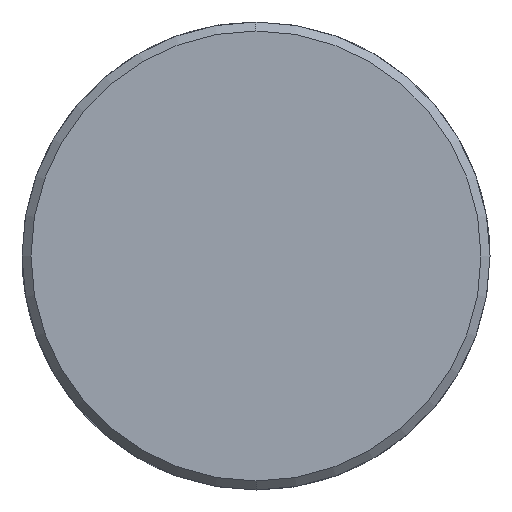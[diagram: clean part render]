
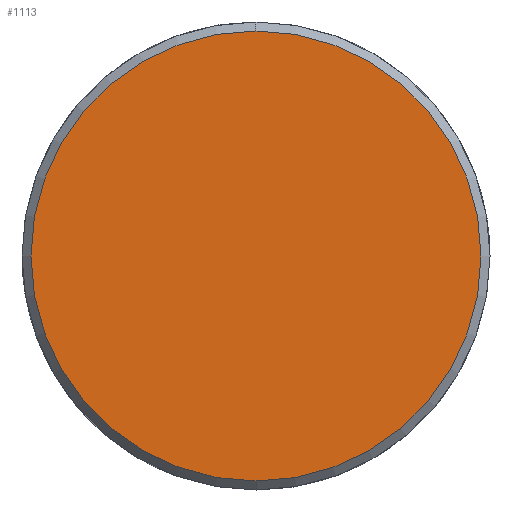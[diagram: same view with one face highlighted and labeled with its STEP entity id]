
A CAD part, left-side view. The second image highlights one B-rep face of the part: STEP entity #1113.
In plain terms, the highlighted planar face has unit normal (-1, 0, 0).
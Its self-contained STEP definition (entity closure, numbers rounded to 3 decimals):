
#1045=CARTESIAN_POINT('Vertex',(-8.,0.,-25.)) ;
#1048=CARTESIAN_POINT('Axis2P3D Location',(-8.,0.,0.)) ;
#1052=CARTESIAN_POINT('Vertex',(-8.,25.,0.)) ;
#1055=CARTESIAN_POINT('Axis2P3D Location',(-8.,0.,0.)) ;
#1059=CARTESIAN_POINT('Vertex',(-8.,0.,25.)) ;
#1081=CARTESIAN_POINT('Axis2P3D Location',(-8.,0.,0.)) ;
#1085=CARTESIAN_POINT('Vertex',(-8.,-25.,0.)) ;
#1088=CARTESIAN_POINT('Axis2P3D Location',(-8.,0.,0.)) ;
#1102=CARTESIAN_POINT('Axis2P3D Location',(-8.,0.,0.)) ;
#1049=DIRECTION('Axis2P3D Direction',(1.,0.,-0.)) ;
#1056=DIRECTION('Axis2P3D Direction',(1.,0.,-0.)) ;
#1082=DIRECTION('Axis2P3D Direction',(1.,0.,-0.)) ;
#1089=DIRECTION('Axis2P3D Direction',(1.,0.,-0.)) ;
#1103=DIRECTION('Axis2P3D Direction',(1.,0.,-0.)) ;
#1104=DIRECTION('Axis2P3D XDirection',(-0.,0.,-1.)) ;
#1050=AXIS2_PLACEMENT_3D('Circle Axis2P3D',#1048,#1049,$) ;
#1057=AXIS2_PLACEMENT_3D('Circle Axis2P3D',#1055,#1056,$) ;
#1083=AXIS2_PLACEMENT_3D('Circle Axis2P3D',#1081,#1082,$) ;
#1090=AXIS2_PLACEMENT_3D('Circle Axis2P3D',#1088,#1089,$) ;
#1105=AXIS2_PLACEMENT_3D('Plane Axis2P3D',#1102,#1103,#1104) ;
#1108=ORIENTED_EDGE('',*,*,#1054,.F.) ;
#1109=ORIENTED_EDGE('',*,*,#1092,.F.) ;
#1110=ORIENTED_EDGE('',*,*,#1087,.F.) ;
#1111=ORIENTED_EDGE('',*,*,#1061,.F.) ;
#1113=ADVANCED_FACE('351-40X126X200',(#1112),#1106,.F.) ;
#1051=CIRCLE('generated circle',#1050,25.) ;
#1058=CIRCLE('generated circle',#1057,25.) ;
#1084=CIRCLE('generated circle',#1083,25.) ;
#1091=CIRCLE('generated circle',#1090,25.) ;
#1054=EDGE_CURVE('',#1046,#1053,#1051,.T.) ;
#1061=EDGE_CURVE('',#1053,#1060,#1058,.T.) ;
#1087=EDGE_CURVE('',#1060,#1086,#1084,.T.) ;
#1092=EDGE_CURVE('',#1086,#1046,#1091,.T.) ;
#1107=EDGE_LOOP('',(#1108,#1109,#1110,#1111)) ;
#1112=FACE_OUTER_BOUND('',#1107,.T.) ;
#1106=PLANE('Plane',#1105) ;
#1046=VERTEX_POINT('',#1045) ;
#1053=VERTEX_POINT('',#1052) ;
#1060=VERTEX_POINT('',#1059) ;
#1086=VERTEX_POINT('',#1085) ;
